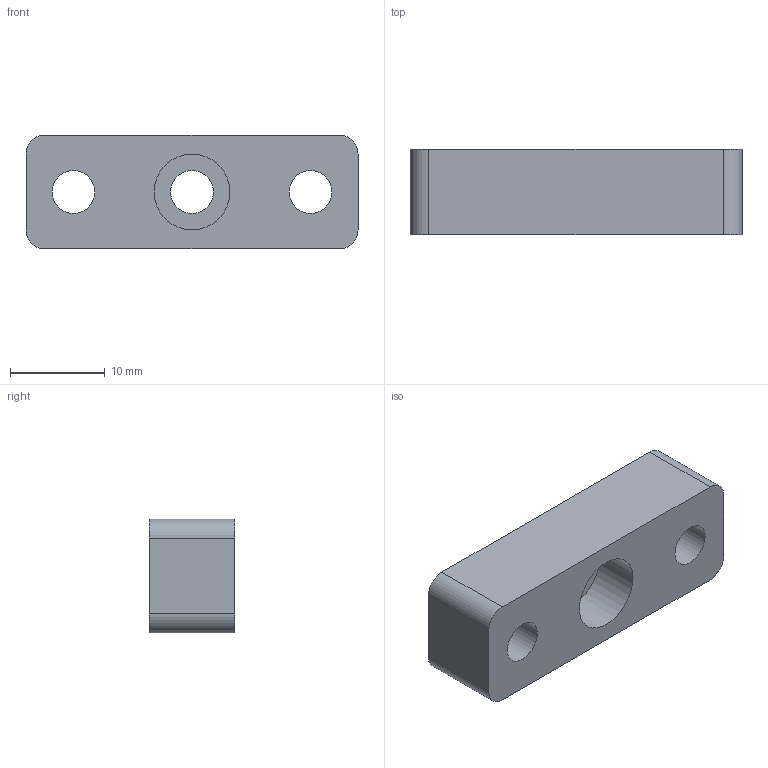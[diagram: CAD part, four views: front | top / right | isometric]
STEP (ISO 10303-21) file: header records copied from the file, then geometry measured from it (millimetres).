
FILE_DESCRIPTION(/* description */ (''),/* implementation_level */ '2;1');
FILE_NAME(/* name */ '35-12-9-4_5-fixed.stp',/* time_stamp */ '2026-04-13T15:00:47+08:00',/* author */ ('lbx20'),/* organization */ (''),/* preprocessor_version */ 'ST-DEVELOPER v20.1',/* originating_system */ 'Autodesk Inventor 2026',/* authorisation */ '');
FILE_SCHEMA (('AUTOMOTIVE_DESIGN { 1 0 10303 214 3 1 1 }'));
Length unit declared in the file: millimetre
Products named in the file (1): Base-1inch-RSP05_M
Bounding box: 35 x 9 x 12 mm (x, y, z)
Volume: 2804.3 mm3; surface area: 2099.4 mm2
Topology: 1 solids, 1 shells, 19 faces, 42 edges, 28 vertices
Faces by surface type: cylinder 10, plane 9
Full cylindrical faces by diameter (mm): 4.5 x3, 8 x3
Entity records: 591 total; most frequent: DIRECTION 102, CARTESIAN_POINT 90, ORIENTED_EDGE 84, EDGE_CURVE 42, AXIS2_PLACEMENT_3D 40, EDGE_LOOP 28, VERTEX_POINT 28, LINE 22
